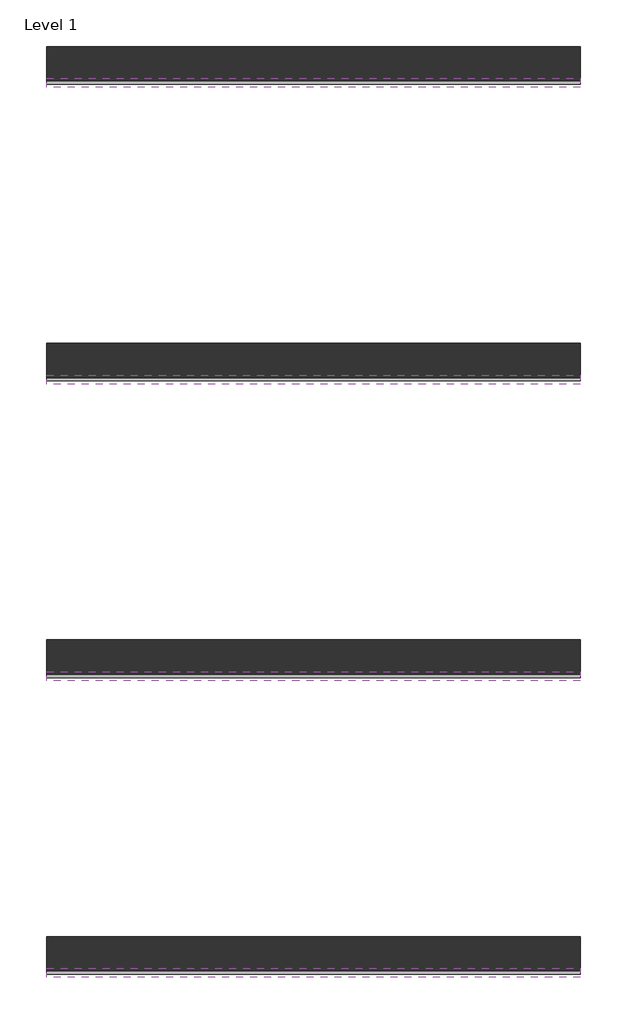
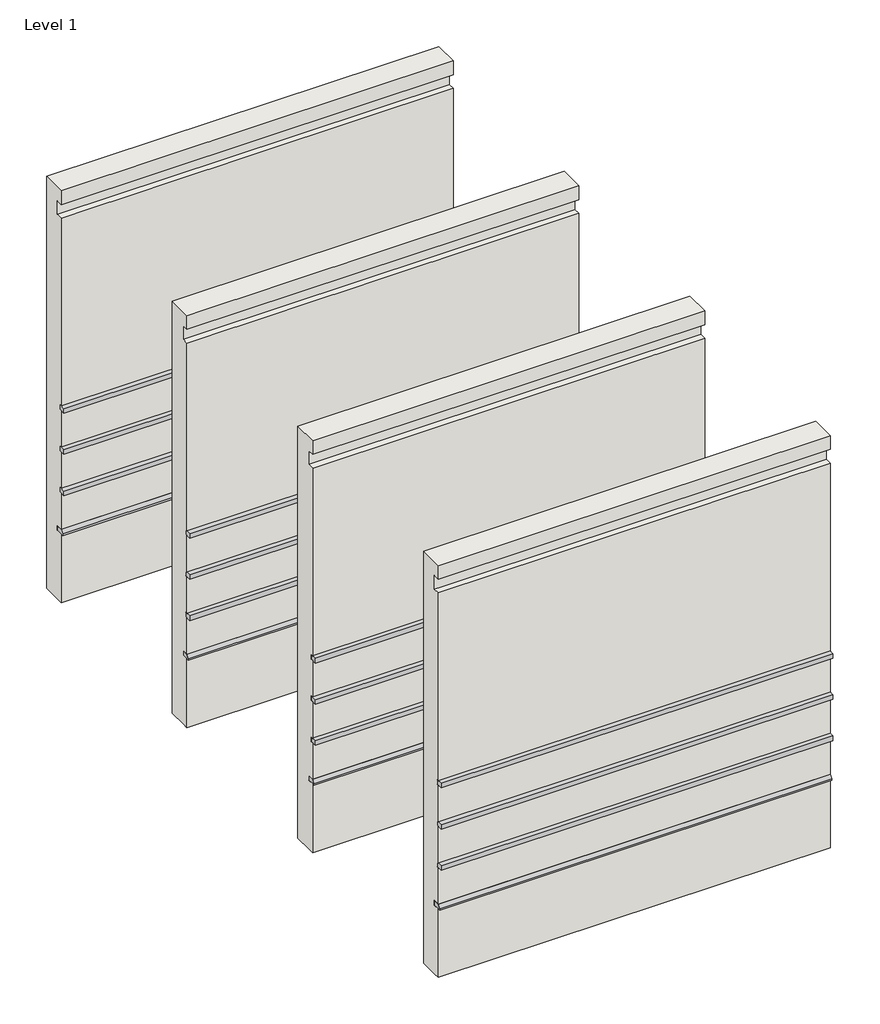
# One storey: 16 proxies, 4 walls.
"""IFC4 building model written with IfcOpenShell, lengths in millimetres."""

from ifc_helpers import new_model, si_unit, frame, origin, place, context, project, spatial, polyline, outline, extrude, faceted_brep, element, save

model = new_model("IFC4")

# Units and contexts
model_context = context("Model", 3, world=origin())
ifc_project = project(units=[si_unit("LENGTHUNIT", "METRE", prefix="MILLI")], contexts=[model_context])

# Site, building, storey
site = spatial("IfcSite", under=ifc_project)
building = spatial("IfcBuilding", under=site)
storey = spatial("IfcBuildingStorey", under=building, Name="Level 1", Elevation=0.0)

# Proxies
placement = place(None, origin())
element("IfcBuildingElementProxy", 1, Name="Reveals", at=placement, inside=storey, context=model_context, shape_type="SweptSolid", body=[
    extrude(outline(polyline([(1921.2116009, -3258.3207655), (1921.2116009, -3350.3957655), (-3565.1883991, -3350.3957655), (-3565.1883991, -3258.3207655), (1921.2116009, -3258.3207655)])), frame((0.0, 0.0, 1625.6), z_axis=(0.0, 0.0, 1.0), x_axis=(1.0, 0.0, 0.0)), (0.0, 0.0, 1.0), 67.7333333),
])
element("IfcBuildingElementProxy", 2, Name="Reveals", at=placement, inside=storey, context=model_context, shape_type="SweptSolid", body=[
    extrude(outline(polyline([(1921.2116009, -3258.3207655), (1921.2116009, -3350.3957655), (-3565.1883991, -3350.3957655), (-3565.1883991, -3258.3207655), (1921.2116009, -3258.3207655)])), frame((0.0, 0.0, 2235.2), z_axis=(0.0, 0.0, 1.0), x_axis=(1.0, 0.0, 0.0)), (0.0, 0.0, 1.0), 67.7333333),
])
element("IfcBuildingElementProxy", 3, Name="Reveals", at=placement, inside=storey, context=model_context, shape_type="SweptSolid", body=[
    extrude(outline(polyline([(1921.2116009, -3258.3207655), (1921.2116009, -3350.3957655), (-3565.1883991, -3350.3957655), (-3565.1883991, -3258.3207655), (1921.2116009, -3258.3207655)])), frame((0.0, 0.0, 2844.8), z_axis=(0.0, 0.0, 1.0), x_axis=(1.0, 0.0, 0.0)), (0.0, 0.0, 1.0), 67.7333333),
])
element("IfcBuildingElementProxy", 4, Name="Wall Sweeps", at=placement, inside=storey, context=model_context, shape_type="Brep", body=[
    faceted_brep([(1921.2116009, -3191.6457655, 1085.85), (1921.2116009, -3283.7207655, 1085.85), (1921.2116009, -3318.6457655, 1041.4), (1921.2116009, -3318.6457655, 1016.0), (1921.2116009, -3283.7207655, 1016.0), (1921.2116009, -3191.6457655, 1016.0), (-3565.1883991, -3191.6457655, 1085.85), (-3565.1883991, -3191.6457655, 1016.0), (-3565.1883991, -3283.7207655, 1016.0), (-3565.1883991, -3318.6457655, 1016.0), (-3565.1883991, -3318.6457655, 1041.4), (-3565.1883991, -3283.7207655, 1085.85)], [[[0, 1, 2, 3, 4, 5]], [[6, 7, 8, 9, 10, 11]], [[1, 0, 6, 11]], [[2, 1, 11, 10]], [[3, 2, 10, 9]], [[5, 4, 3, 9, 8, 7]], [[0, 5, 7, 6]]]),
])
element("IfcBuildingElementProxy", 5, Name="Reveals", at=placement, inside=storey, context=model_context, shape_type="SweptSolid", body=[
    extrude(outline(polyline([(1921.2116009, -210.3207655), (1921.2116009, -302.3957655), (-3565.1883991, -302.3957655), (-3565.1883991, -210.3207655), (1921.2116009, -210.3207655)])), frame((0.0, 0.0, 1625.6), z_axis=(0.0, 0.0, 1.0), x_axis=(1.0, 0.0, 0.0)), (0.0, 0.0, 1.0), 67.7333333),
])
element("IfcBuildingElementProxy", 6, Name="Reveals", at=placement, inside=storey, context=model_context, shape_type="SweptSolid", body=[
    extrude(outline(polyline([(1921.2116009, -210.3207655), (1921.2116009, -302.3957655), (-3565.1883991, -302.3957655), (-3565.1883991, -210.3207655), (1921.2116009, -210.3207655)])), frame((0.0, 0.0, 2235.2), z_axis=(0.0, 0.0, 1.0), x_axis=(1.0, 0.0, 0.0)), (0.0, 0.0, 1.0), 67.7333333),
])
element("IfcBuildingElementProxy", 7, Name="Reveals", at=placement, inside=storey, context=model_context, shape_type="SweptSolid", body=[
    extrude(outline(polyline([(1921.2116009, -210.3207655), (1921.2116009, -302.3957655), (-3565.1883991, -302.3957655), (-3565.1883991, -210.3207655), (1921.2116009, -210.3207655)])), frame((0.0, 0.0, 2844.8), z_axis=(0.0, 0.0, 1.0), x_axis=(1.0, 0.0, 0.0)), (0.0, 0.0, 1.0), 67.7333333),
])
element("IfcBuildingElementProxy", 8, Name="Wall Sweeps", at=placement, inside=storey, context=model_context, shape_type="Brep", body=[
    faceted_brep([(1921.2116009, -143.6457655, 1085.85), (1921.2116009, -235.7207655, 1085.85), (1921.2116009, -270.6457655, 1041.4), (1921.2116009, -270.6457655, 1016.0), (1921.2116009, -235.7207655, 1016.0), (1921.2116009, -143.6457655, 1016.0), (-3565.1883991, -143.6457655, 1085.85), (-3565.1883991, -143.6457655, 1016.0), (-3565.1883991, -235.7207655, 1016.0), (-3565.1883991, -270.6457655, 1016.0), (-3565.1883991, -270.6457655, 1041.4), (-3565.1883991, -235.7207655, 1085.85)], [[[0, 1, 2, 3, 4, 5]], [[6, 7, 8, 9, 10, 11]], [[1, 0, 6, 11]], [[2, 1, 11, 10]], [[3, 2, 10, 9]], [[5, 4, 3, 9, 8, 7]], [[0, 5, 7, 6]]]),
])
element("IfcBuildingElementProxy", 9, Name="Reveals", at=placement, inside=storey, context=model_context, shape_type="SweptSolid", body=[
    extrude(outline(polyline([(1921.2116009, 2837.6792345), (1921.2116009, 2745.6042345), (-3565.1883991, 2745.6042345), (-3565.1883991, 2837.6792345), (1921.2116009, 2837.6792345)])), frame((0.0, 0.0, 1625.6), z_axis=(0.0, 0.0, 1.0), x_axis=(1.0, 0.0, 0.0)), (0.0, 0.0, 1.0), 67.7333333),
])
element("IfcBuildingElementProxy", 10, Name="Reveals", at=placement, inside=storey, context=model_context, shape_type="SweptSolid", body=[
    extrude(outline(polyline([(1921.2116009, 2837.6792345), (1921.2116009, 2745.6042345), (-3565.1883991, 2745.6042345), (-3565.1883991, 2837.6792345), (1921.2116009, 2837.6792345)])), frame((0.0, 0.0, 2235.2), z_axis=(0.0, 0.0, 1.0), x_axis=(1.0, 0.0, 0.0)), (0.0, 0.0, 1.0), 67.7333333),
])
element("IfcBuildingElementProxy", 11, Name="Reveals", at=placement, inside=storey, context=model_context, shape_type="SweptSolid", body=[
    extrude(outline(polyline([(1921.2116009, 2837.6792345), (1921.2116009, 2745.6042345), (-3565.1883991, 2745.6042345), (-3565.1883991, 2837.6792345), (1921.2116009, 2837.6792345)])), frame((0.0, 0.0, 2844.8), z_axis=(0.0, 0.0, 1.0), x_axis=(1.0, 0.0, 0.0)), (0.0, 0.0, 1.0), 67.7333333),
])
element("IfcBuildingElementProxy", 12, Name="Wall Sweeps", at=placement, inside=storey, context=model_context, shape_type="Brep", body=[
    faceted_brep([(1921.2116009, 2904.3542345, 1085.85), (1921.2116009, 2812.2792345, 1085.85), (1921.2116009, 2777.3542345, 1041.4), (1921.2116009, 2777.3542345, 1016.0), (1921.2116009, 2812.2792345, 1016.0), (1921.2116009, 2904.3542345, 1016.0), (-3565.1883991, 2904.3542345, 1085.85), (-3565.1883991, 2904.3542345, 1016.0), (-3565.1883991, 2812.2792345, 1016.0), (-3565.1883991, 2777.3542345, 1016.0), (-3565.1883991, 2777.3542345, 1041.4), (-3565.1883991, 2812.2792345, 1085.85)], [[[0, 1, 2, 3, 4, 5]], [[6, 7, 8, 9, 10, 11]], [[1, 0, 6, 11]], [[2, 1, 11, 10]], [[3, 2, 10, 9]], [[5, 4, 3, 9, 8, 7]], [[0, 5, 7, 6]]]),
])
element("IfcBuildingElementProxy", 13, Name="Reveals", at=placement, inside=storey, context=model_context, shape_type="SweptSolid", body=[
    extrude(outline(polyline([(1921.2116009, 5885.6792345), (1921.2116009, 5793.6042345), (-3565.1883991, 5793.6042345), (-3565.1883991, 5885.6792345), (1921.2116009, 5885.6792345)])), frame((0.0, 0.0, 1625.6), z_axis=(0.0, 0.0, 1.0), x_axis=(1.0, 0.0, 0.0)), (0.0, 0.0, 1.0), 67.7333333),
])
element("IfcBuildingElementProxy", 14, Name="Reveals", at=placement, inside=storey, context=model_context, shape_type="SweptSolid", body=[
    extrude(outline(polyline([(1921.2116009, 5885.6792345), (1921.2116009, 5793.6042345), (-3565.1883991, 5793.6042345), (-3565.1883991, 5885.6792345), (1921.2116009, 5885.6792345)])), frame((0.0, 0.0, 2235.2), z_axis=(0.0, 0.0, 1.0), x_axis=(1.0, 0.0, 0.0)), (0.0, 0.0, 1.0), 67.7333333),
])
element("IfcBuildingElementProxy", 15, Name="Reveals", at=placement, inside=storey, context=model_context, shape_type="SweptSolid", body=[
    extrude(outline(polyline([(1921.2116009, 5885.6792345), (1921.2116009, 5793.6042345), (-3565.1883991, 5793.6042345), (-3565.1883991, 5885.6792345), (1921.2116009, 5885.6792345)])), frame((0.0, 0.0, 2844.8), z_axis=(0.0, 0.0, 1.0), x_axis=(1.0, 0.0, 0.0)), (0.0, 0.0, 1.0), 67.7333333),
])
element("IfcBuildingElementProxy", 16, Name="Wall Sweeps", at=placement, inside=storey, context=model_context, shape_type="Brep", body=[
    faceted_brep([(1921.2116009, 5952.3542345, 1085.85), (1921.2116009, 5860.2792345, 1085.85), (1921.2116009, 5825.3542345, 1041.4), (1921.2116009, 5825.3542345, 1016.0), (1921.2116009, 5860.2792345, 1016.0), (1921.2116009, 5952.3542345, 1016.0), (-3565.1883991, 5952.3542345, 1085.85), (-3565.1883991, 5952.3542345, 1016.0), (-3565.1883991, 5860.2792345, 1016.0), (-3565.1883991, 5825.3542345, 1016.0), (-3565.1883991, 5825.3542345, 1041.4), (-3565.1883991, 5860.2792345, 1085.85)], [[[0, 1, 2, 3, 4, 5]], [[6, 7, 8, 9, 10, 11]], [[1, 0, 6, 11]], [[2, 1, 11, 10]], [[3, 2, 10, 9]], [[5, 4, 3, 9, 8, 7]], [[0, 5, 7, 6]]]),
])

# Walls
element("IfcWall", 17, ObjectType="Exterior - Brick and CMU on MTL. Stud", at=placement, inside=storey, context=model_context, shape_type="SweptSolid", body=[
    extrude(outline(polyline([(-2931.2957655, 6096.0), (-2931.2957655, 0.0), (-3191.6457655, 0.0), (-3283.7207655, 0.0), (-3283.7207655, 1016.0), (-3191.6457655, 1016.0), (-3191.6457655, 1085.85), (-3283.7207655, 1085.85), (-3283.7207655, 1625.6), (-3258.3207655, 1625.6), (-3258.3207655, 1693.3333333), (-3283.7207655, 1693.3333333), (-3283.7207655, 2235.2), (-3258.3207655, 2235.2), (-3258.3207655, 2302.9333333), (-3283.7207655, 2302.9333333), (-3283.7207655, 2844.8), (-3258.3207655, 2844.8), (-3258.3207655, 2912.5333333), (-3283.7207655, 2912.5333333), (-3283.7207655, 5689.6), (-3191.6457655, 5689.6), (-3191.6457655, 5892.8), (-3283.7207655, 5892.8), (-3283.7207655, 6096.0), (-2931.2957655, 6096.0)])), frame((-3565.1883991, 0.0, 0.0), z_axis=(1.0, 0.0, 0.0), x_axis=(0.0, 1.0, 0.0)), (0.0, 0.0, 1.0), 5486.4),
])
element("IfcWall", 18, ObjectType="Exterior - Brick and CMU on MTL. Stud", at=placement, inside=storey, context=model_context, shape_type="SweptSolid", body=[
    extrude(outline(polyline([(116.7042345, 6096.0), (116.7042345, 0.0), (-143.6457655, 0.0), (-235.7207655, 0.0), (-235.7207655, 1016.0), (-143.6457655, 1016.0), (-143.6457655, 1085.85), (-235.7207655, 1085.85), (-235.7207655, 1625.6), (-210.3207655, 1625.6), (-210.3207655, 1693.3333333), (-235.7207655, 1693.3333333), (-235.7207655, 2235.2), (-210.3207655, 2235.2), (-210.3207655, 2302.9333333), (-235.7207655, 2302.9333333), (-235.7207655, 2844.8), (-210.3207655, 2844.8), (-210.3207655, 2912.5333333), (-235.7207655, 2912.5333333), (-235.7207655, 5689.6), (-143.6457655, 5689.6), (-143.6457655, 5892.8), (-235.7207655, 5892.8), (-235.7207655, 6096.0), (116.7042345, 6096.0)])), frame((-3565.1883991, 0.0, 0.0), z_axis=(1.0, 0.0, 0.0), x_axis=(0.0, 1.0, 0.0)), (0.0, 0.0, 1.0), 5486.4),
])
element("IfcWall", 19, ObjectType="Exterior - Brick and CMU on MTL. Stud", at=placement, inside=storey, context=model_context, shape_type="SweptSolid", body=[
    extrude(outline(polyline([(3164.7042345, 6096.0), (3164.7042345, 0.0), (2904.3542345, 0.0), (2812.2792345, 0.0), (2812.2792345, 1016.0), (2904.3542345, 1016.0), (2904.3542345, 1085.85), (2812.2792345, 1085.85), (2812.2792345, 1625.6), (2837.6792345, 1625.6), (2837.6792345, 1693.3333333), (2812.2792345, 1693.3333333), (2812.2792345, 2235.2), (2837.6792345, 2235.2), (2837.6792345, 2302.9333333), (2812.2792345, 2302.9333333), (2812.2792345, 2844.8), (2837.6792345, 2844.8), (2837.6792345, 2912.5333333), (2812.2792345, 2912.5333333), (2812.2792345, 5689.6), (2904.3542345, 5689.6), (2904.3542345, 5892.8), (2812.2792345, 5892.8), (2812.2792345, 6096.0), (3164.7042345, 6096.0)])), frame((-3565.1883991, 0.0, 0.0), z_axis=(1.0, 0.0, 0.0), x_axis=(0.0, 1.0, 0.0)), (0.0, 0.0, 1.0), 5486.4),
])
element("IfcWall", 20, ObjectType="Exterior - Brick and CMU on MTL. Stud", at=placement, inside=storey, context=model_context, shape_type="SweptSolid", body=[
    extrude(outline(polyline([(6212.7042345, 6096.0), (6212.7042345, 0.0), (5952.3542345, 0.0), (5860.2792345, 0.0), (5860.2792345, 1016.0), (5952.3542345, 1016.0), (5952.3542345, 1085.85), (5860.2792345, 1085.85), (5860.2792345, 1625.6), (5885.6792345, 1625.6), (5885.6792345, 1693.3333333), (5860.2792345, 1693.3333333), (5860.2792345, 2235.2), (5885.6792345, 2235.2), (5885.6792345, 2302.9333333), (5860.2792345, 2302.9333333), (5860.2792345, 2844.8), (5885.6792345, 2844.8), (5885.6792345, 2912.5333333), (5860.2792345, 2912.5333333), (5860.2792345, 5689.6), (5952.3542345, 5689.6), (5952.3542345, 5892.8), (5860.2792345, 5892.8), (5860.2792345, 6096.0), (6212.7042345, 6096.0)])), frame((-3565.1883991, 0.0, 0.0), z_axis=(1.0, 0.0, 0.0), x_axis=(0.0, 1.0, 0.0)), (0.0, 0.0, 1.0), 5486.4),
])

save(model, "model.ifc")
